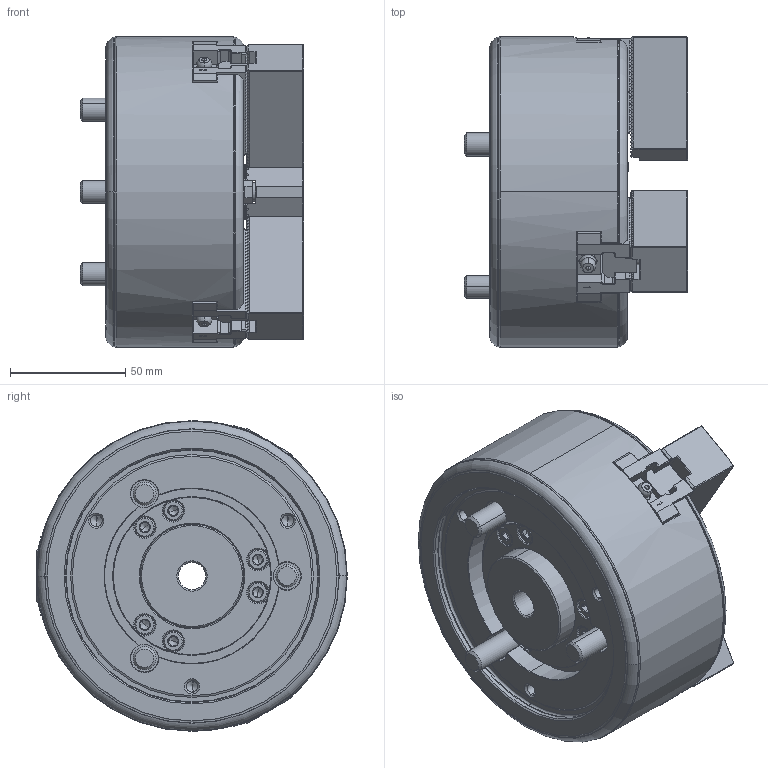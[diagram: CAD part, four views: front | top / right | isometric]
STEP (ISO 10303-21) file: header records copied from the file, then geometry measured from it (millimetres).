
FILE_DESCRIPTION (( 'STEP AP214' ), '1' );
FILE_NAME ('DEV-BR05-OUTSIDE_VIEW_HCL.STEP', '2024-06-05T00:32:33', ( '' ), ( '' ), 'SwSTEP 2.0', 'SolidWorks 2022', '' );
FILE_SCHEMA (( 'AUTOMOTIVE_DESIGN' ));
Length unit declared in the file: millimetre
Products named in the file (9): DEV-BR05-0033104006; DEV-BR05-61P422113; DEV-BR05-61P422122; DEV-BR05-0030110060; DEV-BR05-0030108020; Part2^DEV-BR05-61P866277; DEV-BR05-61P866266; DEV-BR05-OUTSIDE_VIEW_HCL; DEV-BR05-61P422119
Assembly tree (21 placements, depth 2):
  DEV-BR05-OUTSIDE_VIEW_HCL
    DEV-BR05-61P866266
    DEV-BR05-61P422119  x3
    DEV-BR05-61P422113  x3
    DEV-BR05-61P422122
    DEV-BR05-0030110060  x3
    DEV-BR05-0033104006  x3
    DEV-BR05-0030108020  x6
    Part2^DEV-BR05-61P866277
Bounding box: 97 x 135 x 135 mm (x, y, z)
Volume: 821766.5 mm3; surface area: 148124.5 mm2
Topology: 21 solids, 30 shells, 3509 faces, 9774 edges, 6328 vertices
Faces by surface type: plane 2389, cylinder 450, cone 416, bspline 141, torus 100, sphere 13
Entity records: 94097 total; most frequent: CARTESIAN_POINT 24495, ORIENTED_EDGE 15156, DIRECTION 13170, EDGE_CURVE 7578, LINE 5352, VECTOR 5352, VERTEX_POINT 4946, AXIS2_PLACEMENT_3D 3909
